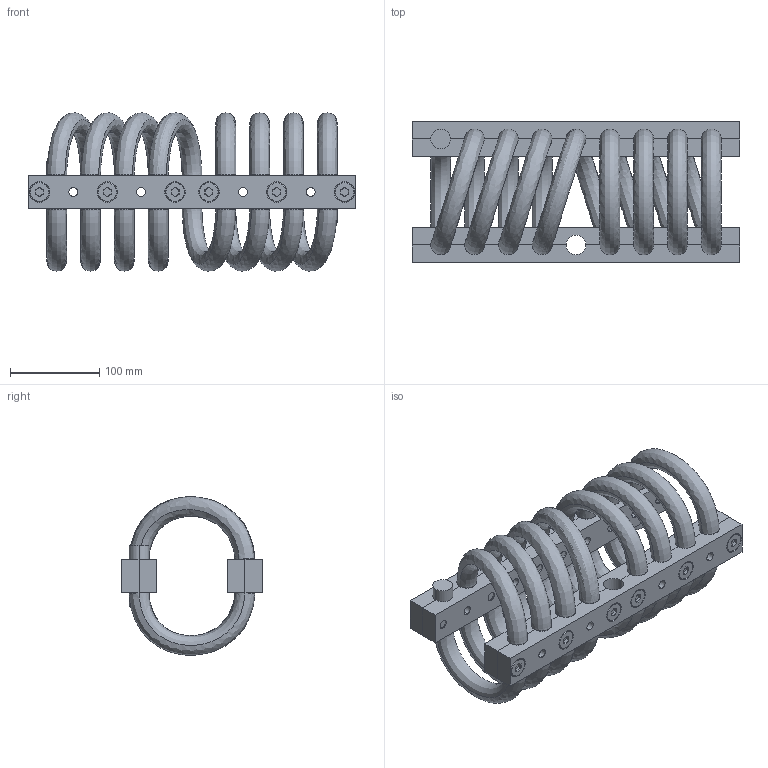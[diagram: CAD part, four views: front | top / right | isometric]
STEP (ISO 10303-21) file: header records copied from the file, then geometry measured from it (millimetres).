
FILE_DESCRIPTION (( 'STEP AP214' ), '1' );
FILE_NAME ('WR28-600-8DM.STEP', '2018-12-07T10:12:33', ( 'user' ), ( 'Microsoft' ), 'SwSTEP 2.0', 'SolidWorks 2016', '' );
FILE_SCHEMA (( 'AUTOMOTIVE_DESIGN' ));
Length unit declared in the file: millimetre
Products named in the file (1): WR28-600-8DM
Bounding box: 368.3 x 159 x 178 mm (x, y, z)
Volume: 2358919 mm3; surface area: 518022.7 mm2
Topology: 34 solids, 34 shells, 664 faces, 1540 edges, 980 vertices
Faces by surface type: plane 300, cylinder 258, cone 72, bspline 34
Entity records: 37087 total; most frequent: CARTESIAN_POINT 20619, DIRECTION 3148, ORIENTED_EDGE 3080, EDGE_CURVE 1540, AXIS2_PLACEMENT_3D 1151, VERTEX_POINT 980, VECTOR 846, LINE 846
